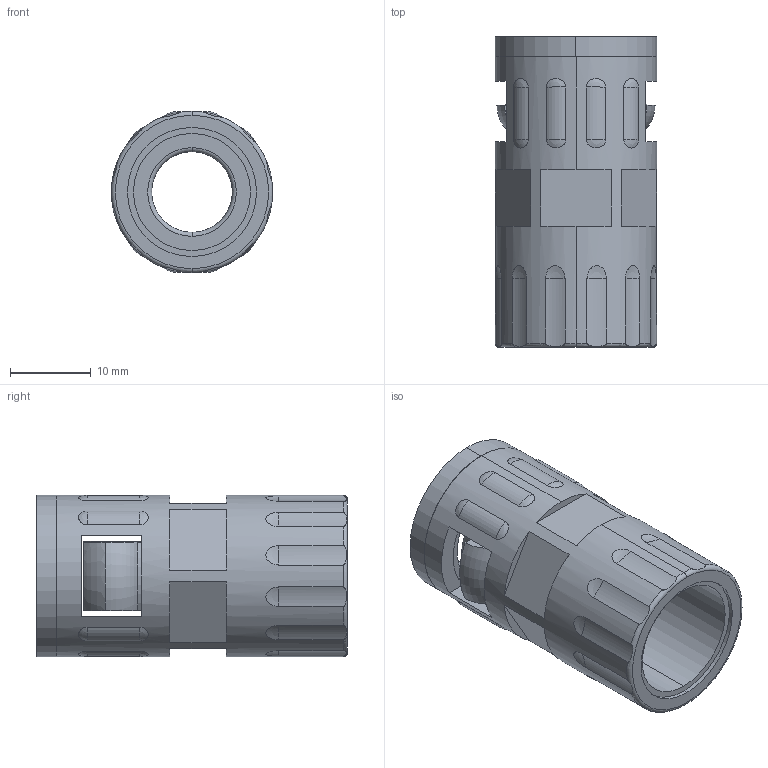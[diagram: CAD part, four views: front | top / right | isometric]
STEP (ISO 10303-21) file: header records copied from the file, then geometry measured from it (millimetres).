
FILE_DESCRIPTION (( 'STEP AP203' ), '1' );
FILE_NAME ('WQG2-M16-AD13.0.STEP', '2019-01-28T06:59:13', ( '' ), ( '' ), 'SwSTEP 2.0', 'SolidWorks 2016', '' );
FILE_SCHEMA (( 'CONFIG_CONTROL_DESIGN' ));
Length unit declared in the file: millimetre
Products named in the file (4): GFD-AD13.0; WQG2-M16-AD13.0; NSK-AD13.0; WQG2-M16-AD13.0-01
Assembly tree (3 placements, depth 2):
  WQG2-M16-AD13.0
    WQG2-M16-AD13.0-01
    GFD-AD13.0
    NSK-AD13.0
Bounding box: 20 x 38.5 x 20 mm (x, y, z)
Volume: 4679.4 mm3; surface area: 7178 mm2
Topology: 2 solids, 5 shells, 188 faces, 490 edges, 298 vertices
Faces by surface type: plane 52, cone 46, cylinder 40, sphere 28, torus 22
Entity records: 6502 total; most frequent: CARTESIAN_POINT 1739, DIRECTION 972, ORIENTED_EDGE 860, EDGE_CURVE 434, AXIS2_PLACEMENT_3D 399, VERTEX_POINT 270, EDGE_LOOP 218, CIRCLE 204
